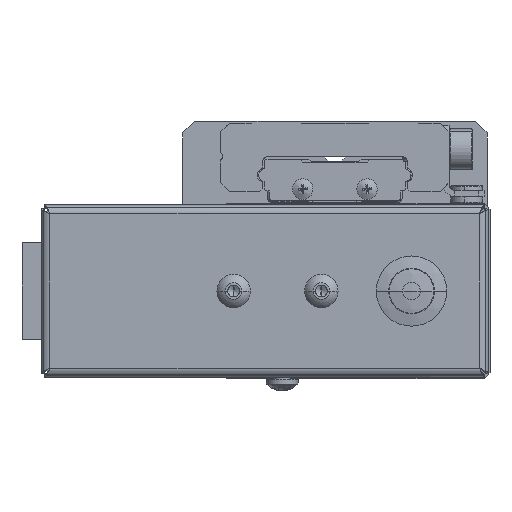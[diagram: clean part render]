
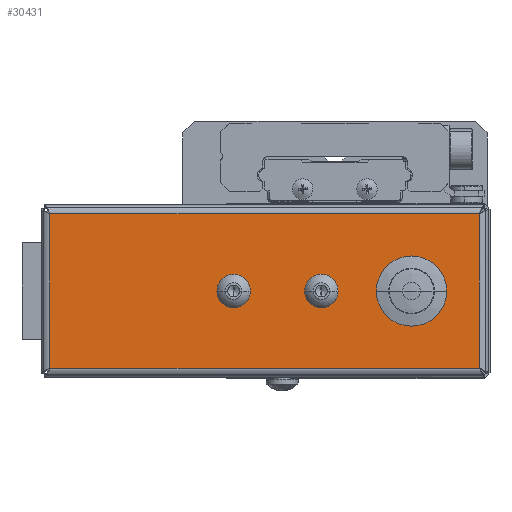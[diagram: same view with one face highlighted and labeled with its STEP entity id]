
A CAD part, left-side view. The second image highlights one B-rep face of the part: STEP entity #30431.
In plain terms, the highlighted planar face has unit normal (-1, 0, 0) as drawn and (0, 0, -1) by its records, which use the part's own axes.
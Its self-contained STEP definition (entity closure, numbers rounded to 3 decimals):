
#249 = ORIENTED_EDGE ( 'NONE', *, *, #6149, .T. ) ;
#498 = EDGE_CURVE ( 'NONE', #28265, #32639, #24050, .T. ) ;
#696 = AXIS2_PLACEMENT_3D ( 'NONE', #37095, #7916, #33969 ) ;
#969 = VECTOR ( 'NONE', #22733, 1000. ) ;
#1486 = AXIS2_PLACEMENT_3D ( 'NONE', #24434, #4727, #41092 ) ;
#1712 = ORIENTED_EDGE ( 'NONE', *, *, #29609, .F. ) ;
#3705 = CIRCLE ( 'NONE', #1486, 3.8 ) ;
#4438 = VECTOR ( 'NONE', #30569, 1000. ) ;
#4727 = DIRECTION ( 'NONE',  ( 0., 0., -1. ) ) ;
#6149 = EDGE_CURVE ( 'NONE', #32639, #30497, #20061, .T. ) ;
#6685 = AXIS2_PLACEMENT_3D ( 'NONE', #37718, #18349, #31472 ) ;
#7795 = CARTESIAN_POINT ( 'NONE',  ( 75.829, 1.5, -0.5 ) ) ;
#7916 = DIRECTION ( 'NONE',  ( 0., 0., -1. ) ) ;
#9044 = VERTEX_POINT ( 'NONE', #37733 ) ;
#10509 = CIRCLE ( 'NONE', #6685, 3.8 ) ;
#10517 = EDGE_CURVE ( 'NONE', #31726, #9044, #10509, .T. ) ;
#12449 = DIRECTION ( 'NONE',  ( 1., 0., 0. ) ) ;
#17531 = FACE_BOUND ( 'NONE', #39996, .T. ) ;
#17818 = VERTEX_POINT ( 'NONE', #37829 ) ;
#18349 = DIRECTION ( 'NONE',  ( 0., 0., -1. ) ) ;
#20061 = LINE ( 'NONE', #38947, #969 ) ;
#21277 = ORIENTED_EDGE ( 'NONE', *, *, #10517, .F. ) ;
#22045 = ORIENTED_EDGE ( 'NONE', *, *, #35904, .T. ) ;
#22733 = DIRECTION ( 'NONE',  ( 0., -1., 0. ) ) ;
#22970 = EDGE_LOOP ( 'NONE', ( #249, #22045, #36252, #27375 ) ) ;
#24050 = LINE ( 'NONE', #35872, #31682 ) ;
#24176 = FACE_OUTER_BOUND ( 'NONE', #22970, .T. ) ;
#24376 = LINE ( 'NONE', #31842, #28460 ) ;
#24434 = CARTESIAN_POINT ( 'NONE',  ( 63.3, 14.7, -0.5 ) ) ;
#25265 = DIRECTION ( 'NONE',  ( 0., 1., 0. ) ) ;
#25554 = CARTESIAN_POINT ( 'NONE',  ( 74.9, 1.5, -0.5 ) ) ;
#27375 = ORIENTED_EDGE ( 'NONE', *, *, #498, .T. ) ;
#27574 = PLANE ( 'NONE',  #696 ) ;
#28265 = VERTEX_POINT ( 'NONE', #29096 ) ;
#28460 = VECTOR ( 'NONE', #25265, 1000. ) ;
#28685 = EDGE_CURVE ( 'NONE', #17818, #28265, #24376, .T. ) ;
#29096 = CARTESIAN_POINT ( 'NONE',  ( 1.5, 27.9, -0.5 ) ) ;
#29609 = EDGE_CURVE ( 'NONE', #9044, #31726, #3705, .T. ) ;
#30431 = ADVANCED_FACE ( 'NONE', ( #17531, #24176 ), #27574, .T. ) ;
#30497 = VERTEX_POINT ( 'NONE', #25554 ) ;
#30569 = DIRECTION ( 'NONE',  ( -1., 0., 0. ) ) ;
#31472 = DIRECTION ( 'NONE',  ( -1., 0., 0. ) ) ;
#31682 = VECTOR ( 'NONE', #12449, 1000. ) ;
#31726 = VERTEX_POINT ( 'NONE', #33887 ) ;
#31842 = CARTESIAN_POINT ( 'NONE',  ( 1.5, 0.571, -0.5 ) ) ;
#32639 = VERTEX_POINT ( 'NONE', #33785 ) ;
#33682 = LINE ( 'NONE', #7795, #4438 ) ;
#33785 = CARTESIAN_POINT ( 'NONE',  ( 74.9, 27.9, -0.5 ) ) ;
#33887 = CARTESIAN_POINT ( 'NONE',  ( 67.1, 14.7, -0.5 ) ) ;
#33969 = DIRECTION ( 'NONE',  ( -1., 0., 0. ) ) ;
#35872 = CARTESIAN_POINT ( 'NONE',  ( 0.571, 27.9, -0.5 ) ) ;
#35904 = EDGE_CURVE ( 'NONE', #30497, #17818, #33682, .T. ) ;
#36252 = ORIENTED_EDGE ( 'NONE', *, *, #28685, .T. ) ;
#37095 = CARTESIAN_POINT ( 'NONE',  ( 0., 0., -0.5 ) ) ;
#37718 = CARTESIAN_POINT ( 'NONE',  ( 63.3, 14.7, -0.5 ) ) ;
#37733 = CARTESIAN_POINT ( 'NONE',  ( 59.5, 14.7, -0.5 ) ) ;
#37829 = CARTESIAN_POINT ( 'NONE',  ( 1.5, 1.5, -0.5 ) ) ;
#38947 = CARTESIAN_POINT ( 'NONE',  ( 74.9, 28.829, -0.5 ) ) ;
#39996 = EDGE_LOOP ( 'NONE', ( #1712, #21277 ) ) ;
#41092 = DIRECTION ( 'NONE',  ( -1., 0., 0. ) ) ;
